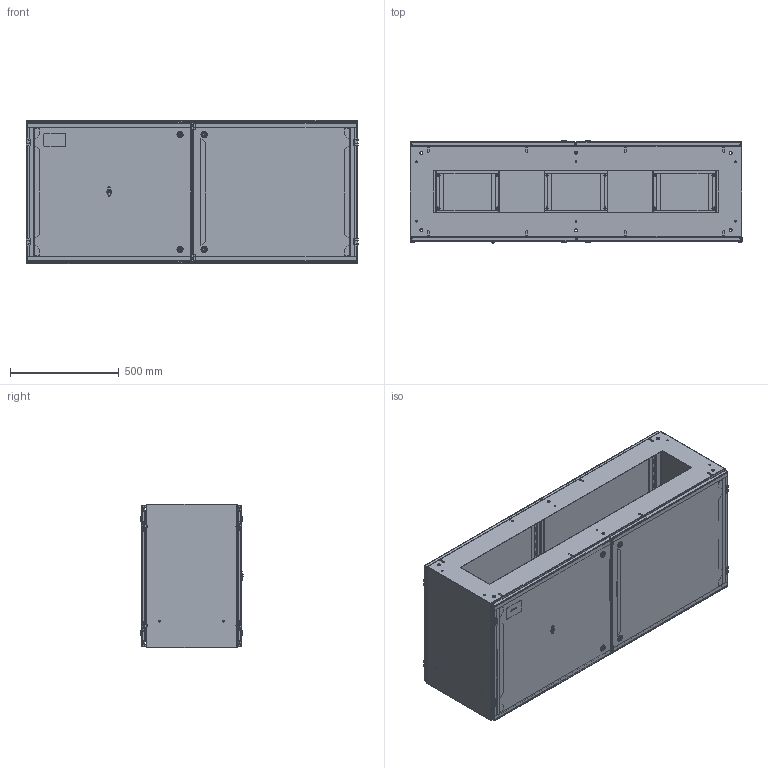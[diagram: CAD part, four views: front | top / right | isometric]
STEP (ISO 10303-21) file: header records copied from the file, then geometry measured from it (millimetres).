
FILE_DESCRIPTION(/* description */ ('Unknown'),/* implementation_level */ '2;1');
FILE_NAME(/* name */ '2CSBX266018',/* time_stamp */ '2018-12-17T13:13:20-05:00',/* author */ ('Unknown'),/* organization */ ('Unknown'),/* preprocessor_version */ 'ST-DEVELOPER v16.7',/* originating_system */ 'DEX',/* authorisation */ $);
FILE_SCHEMA (('AUTOMOTIVE_DESIGN { 1 0 10303 214 3 1 1 }','AUTOMOTIVE_DESIGN {1 0 10303 214 3 1 1}'));
Length unit declared in the file: millimetre
Products named in the file (62): 2CSBX266018; KIT95025; NTS165305; NTS16535; SCS190455; AKT90495; HNG14569; PIN17639; SCS19390; BUL10077; KIT90517; BUL10051; SCC181205; WAM30022; NTS166105; QLB20193; BUL10082; BUL10070; BUL10069; GSK11033_oa_0; COM51913; COM52087-2; COM70073-2; COM51911; AKT90493; LOK10007; LOK10007nut; LOK10007INSERT; LOK10007SC; LOK10007CAM; LOC13385; COM52089-2; COM70062-2; COM52085; GSK11033_oa_1; GSK11033_oa_2; GSK11033_oa_3; GSK11033_oa_4; GSK11033_oa_5; GSK11033_oa_6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
Assembly tree (119 placements, depth 4):
  2CSBX266018
    KIT95025
      NTS165305
      NTS16535
      SCS190455
    AKT90495  x8
      HNG14569
      PIN17639
      SCS19390
    BUL10077
    KIT90517
      BUL10051
      SCC181205
      WAM30022
      NTS166105
    QLB20193
    BUL10082
    BUL10070
    BUL10069
    GSK11033_oa_0
    COM51913  x3
    COM52087-2  x2
      COM70073-2
      COM51911
    AKT90493  x8
      LOK10007
        LOK10007nut
        LOK10007INSERT
        LOK10007SC
        LOK10007CAM
        LOK10007
      LOC13385
    COM52089-2  x2
      COM70062-2
      COM52085
      COM51911
    GSK11033_oa_1
    GSK11033_oa_2
    GSK11033_oa_3
    GSK11033_oa_4
    GSK11033_oa_5
    GSK11033_oa_6
    GSK11033_oa_7
    GSK11033_oa_8
    GSK11033_oa_9
    GSK11033_oa_10
    NTS16535  x12
    GSK11033_oa_11
    GSK11033_oa_12
    GSK11033_oa_13
    GSK11033_oa_14
    GSK11033_oa_15
    STD26258  x28
    COM51901-4
    COM51903-4
    GSK11033_oa_16
    GSK11033_oa_17
    GSK11033_oa_18
    GSK11033_oa_19
    GSK11033_oa_20
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Bounding box: 1526.74 x 470.96 x 660.4 mm (x, y, z)
Volume: 9560636.2 mm3; surface area: 9507168.6 mm2
Topology: 167 solids, 167 shells, 3473 faces, 8465 edges, 5462 vertices
Faces by surface type: plane 2403, cylinder 812, bspline 143, cone 78, torus 37
Full cylindrical faces by diameter (mm): 4.976 x13, 5 x8, 5.004 x8, 5.994 x24, 6 x16, 6.35 x54, 7.137 x120, 7.805 x1, 7.938 x40, 9.144 x2, 9.5 x8, 9.83 x16, 11.887 x1, 12.7 x28, 13.335 x8, 15.875 x8, 16.002 x8, 19.5 x8, 19.939 x8, 22.225 x1, 27.94 x8
Entity records: 42003 total; most frequent: CARTESIAN_POINT 12307, ORIENTED_EDGE 5642, DIRECTION 5639, EDGE_CURVE 2821, LINE 1913, VECTOR 1913, AXIS2_PLACEMENT_3D 1863, VERTEX_POINT 1827
